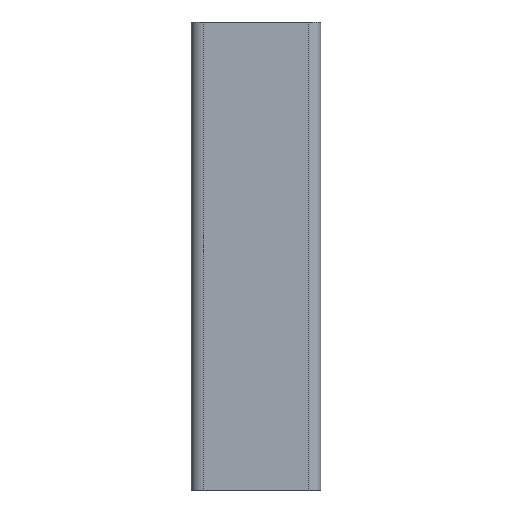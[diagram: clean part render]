
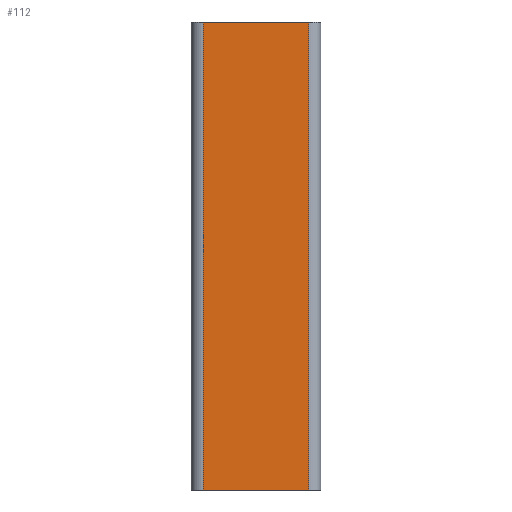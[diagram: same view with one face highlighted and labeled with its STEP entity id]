
A CAD part, left-side view. The second image highlights one B-rep face of the part: STEP entity #112.
In plain terms, the highlighted planar face has unit normal (-1, 0, 0).
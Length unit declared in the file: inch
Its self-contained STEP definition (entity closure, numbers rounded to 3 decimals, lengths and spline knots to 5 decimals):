
#5 = VECTOR ( 'NONE', #238, 39.37008 ) ;
#47 = VECTOR ( 'NONE', #465, 39.37008 ) ;
#62 = AXIS2_PLACEMENT_3D ( 'NONE', #375, #422, #353 ) ;
#63 = VECTOR ( 'NONE', #389, 39.37008 ) ;
#70 = VECTOR ( 'NONE', #387, 39.37008 ) ;
#97 = EDGE_CURVE ( 'NONE', #494, #516, #377, .T. ) ;
#105 = EDGE_CURVE ( 'NONE', #494, #483, #461, .T. ) ;
#106 = EDGE_CURVE ( 'NONE', #516, #545, #425, .T. ) ;
#112 = ADVANCED_FACE ( 'NONE', ( #396 ), #409, .F. ) ;
#135 = EDGE_CURVE ( 'NONE', #483, #545, #237, .T. ) ;
#167 = CARTESIAN_POINT ( 'NONE',  ( -1.6665, -1.3475, -6. ) ) ;
#176 = CARTESIAN_POINT ( 'NONE',  ( -1.6665, -1.3475, 6. ) ) ;
#179 = CARTESIAN_POINT ( 'NONE',  ( -1.6665, 1.3475, 6. ) ) ;
#186 = CARTESIAN_POINT ( 'NONE',  ( -1.6665, 1.3475, -6. ) ) ;
#236 = CARTESIAN_POINT ( 'NONE',  ( -1.6665, -1.3475, -6. ) ) ;
#237 = LINE ( 'NONE', #236, #5 ) ;
#238 = DIRECTION ( 'NONE',  ( 0., -1., 0. ) ) ;
#290 = ORIENTED_EDGE ( 'NONE', *, *, #97, .F. ) ;
#353 = DIRECTION ( 'NONE',  ( 0., 0., -1. ) ) ;
#375 = CARTESIAN_POINT ( 'NONE',  ( -1.6665, -1.3475, 6. ) ) ;
#377 = LINE ( 'NONE', #408, #47 ) ;
#386 = CARTESIAN_POINT ( 'NONE',  ( -1.6665, 1.3475, 6. ) ) ;
#387 = DIRECTION ( 'NONE',  ( 0., 0., -1. ) ) ;
#388 = CARTESIAN_POINT ( 'NONE',  ( -1.6665, -1.3475, 6. ) ) ;
#389 = DIRECTION ( 'NONE',  ( 0., 0., -1. ) ) ;
#396 = FACE_OUTER_BOUND ( 'NONE', #481, .T. ) ;
#408 = CARTESIAN_POINT ( 'NONE',  ( -1.6665, -1.3475, 6. ) ) ;
#409 = PLANE ( 'NONE',  #62 ) ;
#422 = DIRECTION ( 'NONE',  ( 1., 0., 0. ) ) ;
#425 = LINE ( 'NONE', #388, #63 ) ;
#461 = LINE ( 'NONE', #386, #70 ) ;
#465 = DIRECTION ( 'NONE',  ( 0., -1., 0. ) ) ;
#481 = EDGE_LOOP ( 'NONE', ( #549, #570, #290, #539 ) ) ;
#483 = VERTEX_POINT ( 'NONE', #186 ) ;
#494 = VERTEX_POINT ( 'NONE', #179 ) ;
#516 = VERTEX_POINT ( 'NONE', #176 ) ;
#539 = ORIENTED_EDGE ( 'NONE', *, *, #105, .T. ) ;
#545 = VERTEX_POINT ( 'NONE', #167 ) ;
#549 = ORIENTED_EDGE ( 'NONE', *, *, #135, .T. ) ;
#570 = ORIENTED_EDGE ( 'NONE', *, *, #106, .F. ) ;
